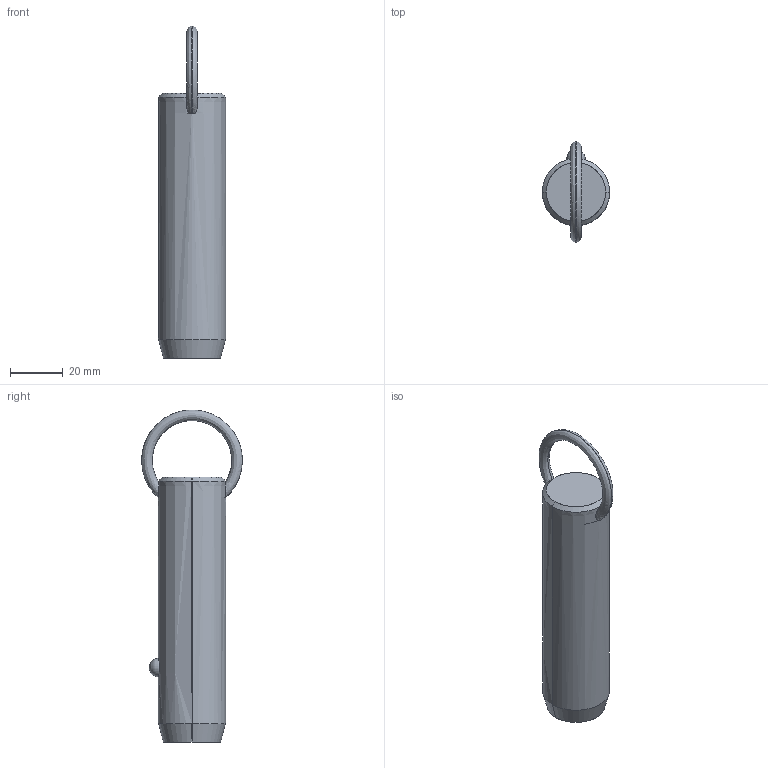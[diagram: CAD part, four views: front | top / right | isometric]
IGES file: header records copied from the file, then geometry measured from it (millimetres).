
Start section: SolidWorks IGES file using analytic representation for surfaces
Global section: file name: C:\Users\liam_\OneDrive\Documents\WORK\Work for WixRoyd\Job Files\J-00019 - Matt Davis CAD Checking\04. CAD Drawings\automotion20190605\P1250.2_v2\P1250.2_v2_20190729_IGES\P1250.100-220.igs; native system: SolidWorks 2017; preprocessor: SolidWorks 2017; author: liam_; date: 190730.173514; units: millimetre
Bounding box: 25.4 x 38.09 x 125.7 mm (x, y, z)
Surface area: 9776.9 mm2 (no closed solid volume)
Topology: 0 solids, 0 shells, 12 faces, 298 edges, 296 vertices
Faces by surface type: revolution 8, bspline 4
